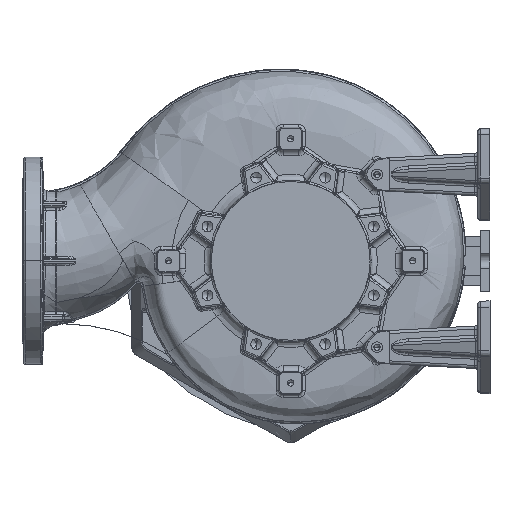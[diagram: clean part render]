
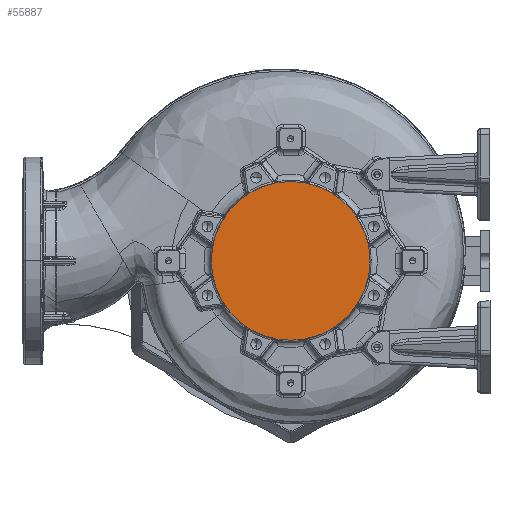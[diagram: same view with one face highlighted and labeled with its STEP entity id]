
A CAD part, left-side view. The second image highlights one B-rep face of the part: STEP entity #55887.
In plain terms, the highlighted planar face has unit normal (-1, 0, 0).
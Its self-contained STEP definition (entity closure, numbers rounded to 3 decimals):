
#1031 = VERTEX_POINT ( 'NONE', #172277 ) ;
#12748 = CARTESIAN_POINT ( 'NONE',  ( -491.5, 0., 0. ) ) ;
#26841 = AXIS2_PLACEMENT_3D ( 'NONE', #40717, #143883, #55581 ) ;
#27676 = DIRECTION ( 'NONE',  ( 0., -1., 0. ) ) ;
#40717 = CARTESIAN_POINT ( 'NONE',  ( -491.5, 0., 0. ) ) ;
#51242 = AXIS2_PLACEMENT_3D ( 'NONE', #87769, #190836, #102603 ) ;
#55581 = DIRECTION ( 'NONE',  ( 0., 1., 0. ) ) ;
#55887 = ADVANCED_FACE ( 'NONE', ( #117737 ), #172828, .F. ) ;
#61633 = VERTEX_POINT ( 'NONE', #140269 ) ;
#62853 = AXIS2_PLACEMENT_3D ( 'NONE', #12748, #116065, #27676 ) ;
#81305 = EDGE_LOOP ( 'NONE', ( #130810, #110153 ) ) ;
#87769 = CARTESIAN_POINT ( 'NONE',  ( -491.5, 0., 0. ) ) ;
#95946 = EDGE_CURVE ( 'NONE', #1031, #61633, #151298, .T. ) ;
#102603 = DIRECTION ( 'NONE',  ( 0., -1., 0. ) ) ;
#110153 = ORIENTED_EDGE ( 'NONE', *, *, #95946, .T. ) ;
#116065 = DIRECTION ( 'NONE',  ( -1., 0., 0. ) ) ;
#117357 = CIRCLE ( 'NONE', #62853, 130. ) ;
#117737 = FACE_OUTER_BOUND ( 'NONE', #81305, .T. ) ;
#130810 = ORIENTED_EDGE ( 'NONE', *, *, #147110, .T. ) ;
#140269 = CARTESIAN_POINT ( 'NONE',  ( -491.5, 130., 0. ) ) ;
#143883 = DIRECTION ( 'NONE',  ( 1., 0., 0. ) ) ;
#147110 = EDGE_CURVE ( 'NONE', #61633, #1031, #117357, .T. ) ;
#151298 = CIRCLE ( 'NONE', #51242, 130. ) ;
#172277 = CARTESIAN_POINT ( 'NONE',  ( -491.5, -130., 0. ) ) ;
#172828 = PLANE ( 'NONE',  #26841 ) ;
#190836 = DIRECTION ( 'NONE',  ( -1., 0., 0. ) ) ;
